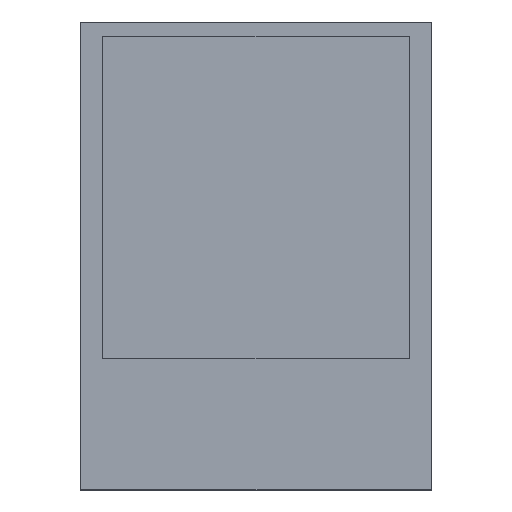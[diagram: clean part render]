
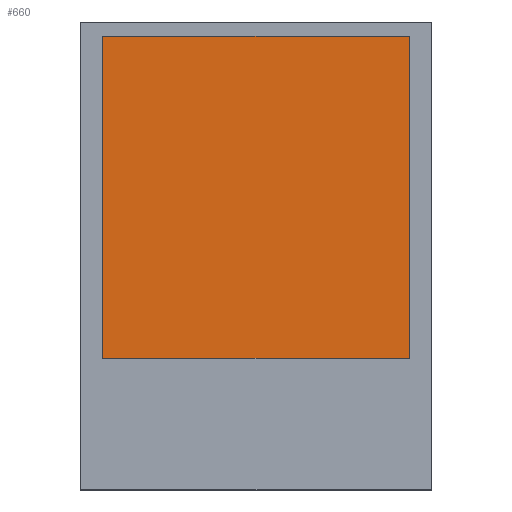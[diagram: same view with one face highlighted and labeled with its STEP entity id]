
A CAD part, top view. The second image highlights one B-rep face of the part: STEP entity #660.
In plain terms, the highlighted planar face has unit normal (0, 0, 1).
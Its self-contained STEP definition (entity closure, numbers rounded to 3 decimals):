
#283 = PLANE('',#284);
#284 = AXIS2_PLACEMENT_3D('',#285,#286,#287);
#285 = CARTESIAN_POINT('',(-7.6,-5.08,0.8));
#286 = DIRECTION('',(1.,0.,0.));
#287 = DIRECTION('',(0.,0.,1.));
#311 = PLANE('',#312);
#312 = AXIS2_PLACEMENT_3D('',#313,#314,#315);
#313 = CARTESIAN_POINT('',(-7.6,10.9,0.8));
#314 = DIRECTION('',(0.,1.,0.));
#315 = DIRECTION('',(0.,0.,1.));
#339 = PLANE('',#340);
#340 = AXIS2_PLACEMENT_3D('',#341,#342,#343);
#341 = CARTESIAN_POINT('',(7.6,-5.08,0.8));
#342 = DIRECTION('',(1.,0.,0.));
#343 = DIRECTION('',(0.,0.,1.));
#365 = PLANE('',#366);
#366 = AXIS2_PLACEMENT_3D('',#367,#368,#369);
#367 = CARTESIAN_POINT('',(-7.6,-5.08,0.8));
#368 = DIRECTION('',(0.,1.,0.));
#369 = DIRECTION('',(0.,0.,1.));
#464 = VERTEX_POINT('',#465);
#465 = CARTESIAN_POINT('',(-7.6,-5.08,2.));
#488 = VERTEX_POINT('',#489);
#489 = CARTESIAN_POINT('',(-7.6,10.9,2.));
#510 = EDGE_CURVE('',#464,#488,#511,.T.);
#511 = SURFACE_CURVE('',#512,(#516,#523),.PCURVE_S1.);
#512 = LINE('',#513,#514);
#513 = CARTESIAN_POINT('',(-7.6,-5.08,2.));
#514 = VECTOR('',#515,1.);
#515 = DIRECTION('',(0.,1.,0.));
#516 = PCURVE('',#283,#517);
#517 = DEFINITIONAL_REPRESENTATION('',(#518),#522);
#518 = LINE('',#519,#520);
#519 = CARTESIAN_POINT('',(1.2,0.));
#520 = VECTOR('',#521,1.);
#521 = DIRECTION('',(0.,-1.));
#522 = ( GEOMETRIC_REPRESENTATION_CONTEXT(2) 
PARAMETRIC_REPRESENTATION_CONTEXT() REPRESENTATION_CONTEXT('2D SPACE',''
  ) );
#523 = PCURVE('',#524,#529);
#524 = PLANE('',#525);
#525 = AXIS2_PLACEMENT_3D('',#526,#527,#528);
#526 = CARTESIAN_POINT('',(-7.6,-5.08,2.));
#527 = DIRECTION('',(0.,0.,1.));
#528 = DIRECTION('',(1.,0.,0.));
#529 = DEFINITIONAL_REPRESENTATION('',(#530),#534);
#530 = LINE('',#531,#532);
#531 = CARTESIAN_POINT('',(0.,0.));
#532 = VECTOR('',#533,1.);
#533 = DIRECTION('',(0.,1.));
#534 = ( GEOMETRIC_REPRESENTATION_CONTEXT(2) 
PARAMETRIC_REPRESENTATION_CONTEXT() REPRESENTATION_CONTEXT('2D SPACE',''
  ) );
#541 = EDGE_CURVE('',#464,#542,#544,.T.);
#542 = VERTEX_POINT('',#543);
#543 = CARTESIAN_POINT('',(7.6,-5.08,2.));
#544 = SURFACE_CURVE('',#545,(#549,#556),.PCURVE_S1.);
#545 = LINE('',#546,#547);
#546 = CARTESIAN_POINT('',(-7.6,-5.08,2.));
#547 = VECTOR('',#548,1.);
#548 = DIRECTION('',(1.,0.,0.));
#549 = PCURVE('',#365,#550);
#550 = DEFINITIONAL_REPRESENTATION('',(#551),#555);
#551 = LINE('',#552,#553);
#552 = CARTESIAN_POINT('',(1.2,0.));
#553 = VECTOR('',#554,1.);
#554 = DIRECTION('',(0.,1.));
#555 = ( GEOMETRIC_REPRESENTATION_CONTEXT(2) 
PARAMETRIC_REPRESENTATION_CONTEXT() REPRESENTATION_CONTEXT('2D SPACE',''
  ) );
#556 = PCURVE('',#524,#557);
#557 = DEFINITIONAL_REPRESENTATION('',(#558),#562);
#558 = LINE('',#559,#560);
#559 = CARTESIAN_POINT('',(0.,0.));
#560 = VECTOR('',#561,1.);
#561 = DIRECTION('',(1.,0.));
#562 = ( GEOMETRIC_REPRESENTATION_CONTEXT(2) 
PARAMETRIC_REPRESENTATION_CONTEXT() REPRESENTATION_CONTEXT('2D SPACE',''
  ) );
#591 = VERTEX_POINT('',#592);
#592 = CARTESIAN_POINT('',(7.6,10.9,2.));
#613 = EDGE_CURVE('',#542,#591,#614,.T.);
#614 = SURFACE_CURVE('',#615,(#619,#626),.PCURVE_S1.);
#615 = LINE('',#616,#617);
#616 = CARTESIAN_POINT('',(7.6,-5.08,2.));
#617 = VECTOR('',#618,1.);
#618 = DIRECTION('',(0.,1.,0.));
#619 = PCURVE('',#339,#620);
#620 = DEFINITIONAL_REPRESENTATION('',(#621),#625);
#621 = LINE('',#622,#623);
#622 = CARTESIAN_POINT('',(1.2,0.));
#623 = VECTOR('',#624,1.);
#624 = DIRECTION('',(0.,-1.));
#625 = ( GEOMETRIC_REPRESENTATION_CONTEXT(2) 
PARAMETRIC_REPRESENTATION_CONTEXT() REPRESENTATION_CONTEXT('2D SPACE',''
  ) );
#626 = PCURVE('',#524,#627);
#627 = DEFINITIONAL_REPRESENTATION('',(#628),#632);
#628 = LINE('',#629,#630);
#629 = CARTESIAN_POINT('',(15.2,0.));
#630 = VECTOR('',#631,1.);
#631 = DIRECTION('',(0.,1.));
#632 = ( GEOMETRIC_REPRESENTATION_CONTEXT(2) 
PARAMETRIC_REPRESENTATION_CONTEXT() REPRESENTATION_CONTEXT('2D SPACE',''
  ) );
#639 = EDGE_CURVE('',#488,#591,#640,.T.);
#640 = SURFACE_CURVE('',#641,(#645,#652),.PCURVE_S1.);
#641 = LINE('',#642,#643);
#642 = CARTESIAN_POINT('',(-7.6,10.9,2.));
#643 = VECTOR('',#644,1.);
#644 = DIRECTION('',(1.,0.,0.));
#645 = PCURVE('',#311,#646);
#646 = DEFINITIONAL_REPRESENTATION('',(#647),#651);
#647 = LINE('',#648,#649);
#648 = CARTESIAN_POINT('',(1.2,0.));
#649 = VECTOR('',#650,1.);
#650 = DIRECTION('',(0.,1.));
#651 = ( GEOMETRIC_REPRESENTATION_CONTEXT(2) 
PARAMETRIC_REPRESENTATION_CONTEXT() REPRESENTATION_CONTEXT('2D SPACE',''
  ) );
#652 = PCURVE('',#524,#653);
#653 = DEFINITIONAL_REPRESENTATION('',(#654),#658);
#654 = LINE('',#655,#656);
#655 = CARTESIAN_POINT('',(0.,15.98));
#656 = VECTOR('',#657,1.);
#657 = DIRECTION('',(1.,0.));
#658 = ( GEOMETRIC_REPRESENTATION_CONTEXT(2) 
PARAMETRIC_REPRESENTATION_CONTEXT() REPRESENTATION_CONTEXT('2D SPACE',''
  ) );
#660 = ADVANCED_FACE('',(#661),#524,.T.);
#661 = FACE_BOUND('',#662,.T.);
#662 = EDGE_LOOP('',(#663,#664,#665,#666));
#663 = ORIENTED_EDGE('',*,*,#510,.F.);
#664 = ORIENTED_EDGE('',*,*,#541,.T.);
#665 = ORIENTED_EDGE('',*,*,#613,.T.);
#666 = ORIENTED_EDGE('',*,*,#639,.F.);
